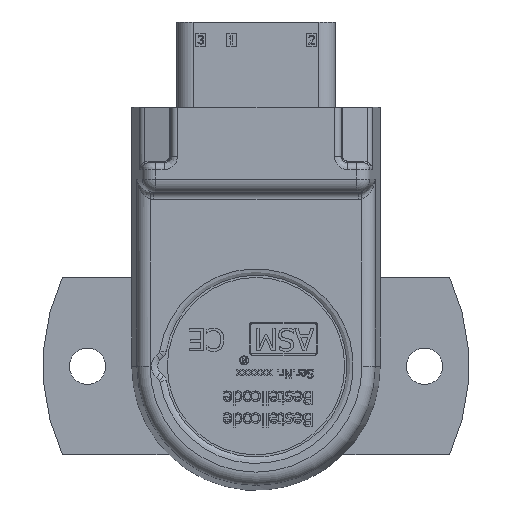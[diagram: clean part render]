
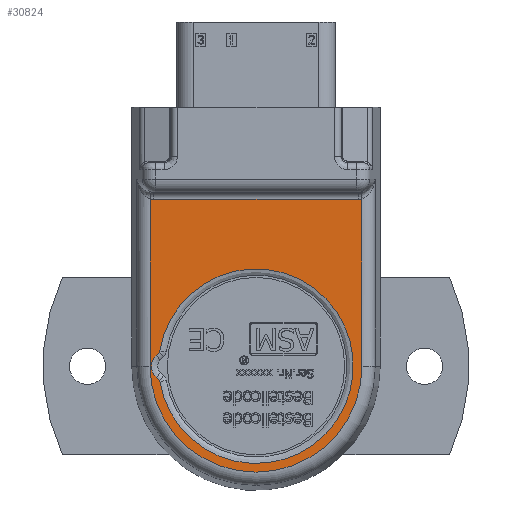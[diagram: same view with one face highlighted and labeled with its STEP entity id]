
A CAD part, top view. The second image highlights one B-rep face of the part: STEP entity #30824.
In plain terms, the highlighted planar face has unit normal (0, 0, 1).
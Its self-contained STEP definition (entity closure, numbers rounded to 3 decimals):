
#30531=CARTESIAN_POINT('',(-8.417,-1.646,7.154));
#30532=VERTEX_POINT('',#30531);
#30540=CARTESIAN_POINT('',(-8.334,-1.805,7.154));
#30541=VERTEX_POINT('',#30540);
#30542=CARTESIAN_POINT('',(-8.616,-1.851,7.154));
#30543=DIRECTION('',(0.,0.,-1.));
#30544=DIRECTION('',(-0.888,-0.46,0.));
#30545=AXIS2_PLACEMENT_3D('',#30542,#30543,#30544);
#30546=CIRCLE('',#30545,0.286);
#30547=EDGE_CURVE('',#30532,#30541,#30546,.T.);
#30574=CARTESIAN_POINT('',(-8.773,-1.299,7.154));
#30575=VERTEX_POINT('',#30574);
#30583=CARTESIAN_POINT('',(-8.773,-1.299,7.154));
#30584=DIRECTION('',(0.716,-0.698,0.0));
#30585=VECTOR('',#30584,0.497);
#30586=LINE('',#30583,#30585);
#30587=EDGE_CURVE('',#30575,#30532,#30586,.T.);
#30629=CARTESIAN_POINT('',(-8.334,1.662,7.154));
#30630=VERTEX_POINT('',#30629);
#30640=CARTESIAN_POINT('',(2.492,-0.072,7.154));
#30641=DIRECTION('',(0.,0.,1.0));
#30642=DIRECTION('',(0.987,0.158,0.));
#30643=AXIS2_PLACEMENT_3D('',#30640,#30641,#30642);
#30644=CIRCLE('',#30643,10.964);
#30645=EDGE_CURVE('',#30541,#30630,#30644,.T.);
#30673=CARTESIAN_POINT('',(-8.773,1.155,7.154));
#30674=VERTEX_POINT('',#30673);
#30682=CARTESIAN_POINT('',(-7.576,-0.072,7.154));
#30683=DIRECTION('',(0.,0.,1.0));
#30684=DIRECTION('',(0.698,0.716,0.));
#30685=AXIS2_PLACEMENT_3D('',#30682,#30683,#30684);
#30686=CIRCLE('',#30685,1.714);
#30687=EDGE_CURVE('',#30674,#30575,#30686,.T.);
#30711=CARTESIAN_POINT('',(-8.417,1.502,7.154));
#30712=VERTEX_POINT('',#30711);
#30722=CARTESIAN_POINT('',(-8.616,1.707,7.154));
#30723=DIRECTION('',(0.,0.,-1.));
#30724=DIRECTION('',(-0.987,0.158,0.));
#30725=AXIS2_PLACEMENT_3D('',#30722,#30723,#30724);
#30726=CIRCLE('',#30725,0.286);
#30727=EDGE_CURVE('',#30630,#30712,#30726,.T.);
#30747=CARTESIAN_POINT('',(-8.417,1.502,7.154));
#30748=DIRECTION('',(-0.716,-0.698,0.0));
#30749=VECTOR('',#30748,0.497);
#30750=LINE('',#30747,#30749);
#30751=EDGE_CURVE('',#30712,#30674,#30750,.T.);
#30758=CARTESIAN_POINT('',(2.534,-1.792,7.154));
#30759=DIRECTION('',(0.0,0.0,1.0));
#30760=DIRECTION('',(1.0,0.0,0.0));
#30761=AXIS2_PLACEMENT_3D('',#30758,#30759,#30760);
#30762=PLANE('',#30761);
#30763=CARTESIAN_POINT('',(-9.456,18.782,7.154));
#30764=VERTEX_POINT('',#30763);
#30765=CARTESIAN_POINT('',(-9.059,18.748,7.154));
#30766=VERTEX_POINT('',#30765);
#30767=CARTESIAN_POINT('',(-9.059,20.998,7.154));
#30768=DIRECTION('',(0.0,0.0,1.0));
#30769=DIRECTION('',(-1.0,0.0,0.0));
#30770=AXIS2_PLACEMENT_3D('',#30767,#30768,#30769);
#30771=ELLIPSE('',#30770,2.285,2.25);
#30772=EDGE_CURVE('',#30764,#30766,#30771,.T.);
#30773=ORIENTED_EDGE('',*,*,#30772,.F.);
#30774=CARTESIAN_POINT('',(-9.456,-0.072,7.154));
#30775=VERTEX_POINT('',#30774);
#30776=CARTESIAN_POINT('',(-9.456,-0.072,7.154));
#30777=DIRECTION('',(0.0,1.0,0.0));
#30778=VECTOR('',#30777,18.854);
#30779=LINE('',#30776,#30778);
#30780=EDGE_CURVE('',#30775,#30764,#30779,.T.);
#30781=ORIENTED_EDGE('',*,*,#30780,.F.);
#30782=CARTESIAN_POINT('',(14.44,-0.072,7.154));
#30783=VERTEX_POINT('',#30782);
#30784=CARTESIAN_POINT('',(2.492,-0.072,7.154));
#30785=DIRECTION('',(0.0,0.0,-1.0));
#30786=DIRECTION('',(0.0,-1.0,0.0));
#30787=AXIS2_PLACEMENT_3D('',#30784,#30785,#30786);
#30788=CIRCLE('',#30787,11.948);
#30789=EDGE_CURVE('',#30783,#30775,#30788,.T.);
#30790=ORIENTED_EDGE('',*,*,#30789,.F.);
#30791=CARTESIAN_POINT('',(14.44,18.782,7.154));
#30792=VERTEX_POINT('',#30791);
#30793=CARTESIAN_POINT('',(14.44,18.782,7.154));
#30794=DIRECTION('',(0.0,-1.0,0.0));
#30795=VECTOR('',#30794,18.854);
#30796=LINE('',#30793,#30795);
#30797=EDGE_CURVE('',#30792,#30783,#30796,.T.);
#30798=ORIENTED_EDGE('',*,*,#30797,.F.);
#30799=CARTESIAN_POINT('',(14.043,18.748,7.154));
#30800=VERTEX_POINT('',#30799);
#30801=CARTESIAN_POINT('',(14.043,20.998,7.154));
#30802=DIRECTION('',(0.0,0.0,1.0));
#30803=DIRECTION('',(1.0,0.0,0.0));
#30804=AXIS2_PLACEMENT_3D('',#30801,#30802,#30803);
#30805=ELLIPSE('',#30804,2.285,2.25);
#30806=EDGE_CURVE('',#30800,#30792,#30805,.T.);
#30807=ORIENTED_EDGE('',*,*,#30806,.F.);
#30808=CARTESIAN_POINT('',(-9.059,18.748,7.154));
#30809=DIRECTION('',(1.0,0.0,0.0));
#30810=VECTOR('',#30809,23.102);
#30811=LINE('',#30808,#30810);
#30812=EDGE_CURVE('',#30766,#30800,#30811,.T.);
#30813=ORIENTED_EDGE('',*,*,#30812,.F.);
#30814=EDGE_LOOP('',(#30773,#30781,#30790,#30798,#30807,#30813));
#30815=FACE_OUTER_BOUND('',#30814,.T.);
#30816=ORIENTED_EDGE('',*,*,#30547,.F.);
#30817=ORIENTED_EDGE('',*,*,#30587,.F.);
#30818=ORIENTED_EDGE('',*,*,#30687,.F.);
#30819=ORIENTED_EDGE('',*,*,#30751,.F.);
#30820=ORIENTED_EDGE('',*,*,#30727,.F.);
#30821=ORIENTED_EDGE('',*,*,#30645,.F.);
#30822=EDGE_LOOP('',(#30816,#30817,#30818,#30819,#30820,#30821));
#30823=FACE_BOUND('',#30822,.T.);
#30824=ADVANCED_FACE('',(#30815,#30823),#30762,.T.);
